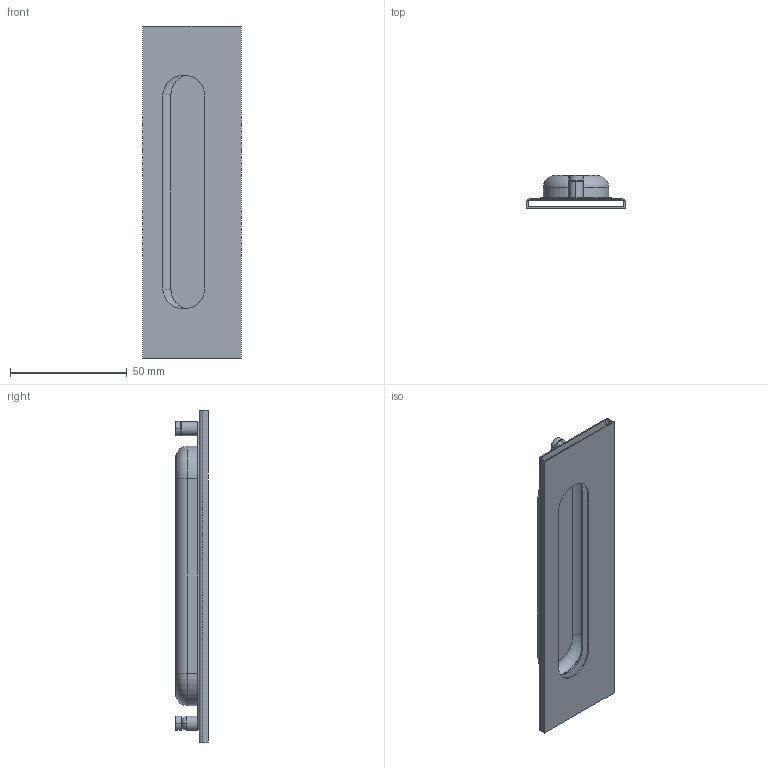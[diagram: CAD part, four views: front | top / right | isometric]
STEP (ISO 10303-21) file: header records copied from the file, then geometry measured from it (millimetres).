
FILE_DESCRIPTION (( 'STEP AP214' ), '1' );
FILE_NAME ('LS523.STEP', '2023-06-28T01:07:18', ( 'Windows 蚚誧' ), ( '' ), 'SwSTEP 2.0', 'SolidWorks 2019', '' );
FILE_SCHEMA (( 'AUTOMOTIVE_DESIGN' ));
Length unit declared in the file: millimetre
Products named in the file (1): LS523
Bounding box: 42 x 14 x 142 mm (x, y, z)
Volume: 10091.5 mm3; surface area: 30454.1 mm2
Topology: 8 solids, 8 shells, 114 faces, 275 edges, 180 vertices
Faces by surface type: plane 67, cylinder 39, torus 8
Entity records: 3444 total; most frequent: DIRECTION 597, CARTESIAN_POINT 570, ORIENTED_EDGE 550, EDGE_CURVE 275, AXIS2_PLACEMENT_3D 207, LINE 183, VECTOR 183, VERTEX_POINT 180
